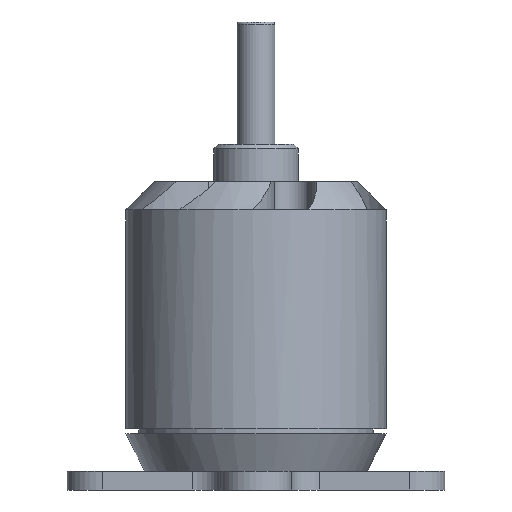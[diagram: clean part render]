
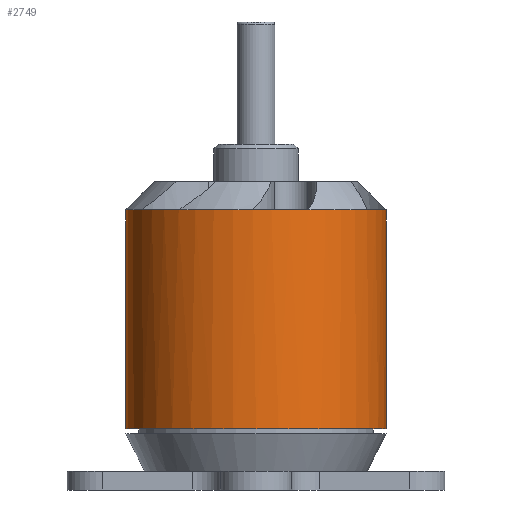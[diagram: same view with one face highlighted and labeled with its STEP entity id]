
A CAD part, front view. The second image highlights one B-rep face of the part: STEP entity #2749.
In plain terms, the highlighted cylindrical face has radius 13.85 mm (diameter 27.7 mm), a full revolution.
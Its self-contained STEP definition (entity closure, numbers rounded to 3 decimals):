
#296=FACE_OUTER_BOUND('',#467,.T.);
#467=EDGE_LOOP('',(#2468,#2469,#2470,#2471,#2472,#2473,#2474,#2475,#2476,
#2477,#2478,#2479,#2480,#2481,#2482,#2483));
#543=CIRCLE('',#2930,13.85);
#559=CIRCLE('',#2966,13.85);
#562=CIRCLE('',#2971,13.85);
#573=CIRCLE('',#2988,13.85);
#580=CIRCLE('',#2999,13.85);
#587=CIRCLE('',#3010,13.85);
#594=CIRCLE('',#3021,13.85);
#601=CIRCLE('',#3030,13.85);
#602=CIRCLE('',#3032,13.85);
#603=CIRCLE('',#3034,13.85);
#604=CIRCLE('',#3036,13.85);
#605=CIRCLE('',#3038,13.85);
#606=CIRCLE('',#3039,13.85);
#611=CIRCLE('',#3053,13.85);
#878=LINE('',#8554,#1008);
#1008=VECTOR('',#3765,13.85);
#1209=VERTEX_POINT('',#5768);
#1222=VERTEX_POINT('',#8312);
#1225=VERTEX_POINT('',#8324);
#1227=VERTEX_POINT('',#8339);
#1230=VERTEX_POINT('',#8354);
#1238=VERTEX_POINT('',#8382);
#1241=VERTEX_POINT('',#8394);
#1246=VERTEX_POINT('',#8417);
#1249=VERTEX_POINT('',#8429);
#1254=VERTEX_POINT('',#8452);
#1257=VERTEX_POINT('',#8464);
#1262=VERTEX_POINT('',#8487);
#1265=VERTEX_POINT('',#8499);
#1266=VERTEX_POINT('',#8528);
#1555=EDGE_CURVE('',#1209,#1209,#543,.T.);
#1602=EDGE_CURVE('',#1222,#1225,#559,.T.);
#1607=EDGE_CURVE('',#1230,#1227,#562,.T.);
#1624=EDGE_CURVE('',#1238,#1241,#573,.T.);
#1635=EDGE_CURVE('',#1246,#1249,#580,.T.);
#1646=EDGE_CURVE('',#1254,#1257,#587,.T.);
#1657=EDGE_CURVE('',#1262,#1265,#594,.T.);
#1664=EDGE_CURVE('',#1249,#1254,#601,.T.);
#1665=EDGE_CURVE('',#1265,#1238,#602,.T.);
#1666=EDGE_CURVE('',#1257,#1230,#603,.T.);
#1667=EDGE_CURVE('',#1227,#1262,#604,.T.);
#1668=EDGE_CURVE('',#1225,#1266,#605,.T.);
#1669=EDGE_CURVE('',#1266,#1246,#606,.T.);
#1678=EDGE_CURVE('',#1241,#1222,#611,.T.);
#1679=EDGE_CURVE('',#1266,#1209,#878,.T.);
#2468=ORIENTED_EDGE('',*,*,#1668,.F.);
#2469=ORIENTED_EDGE('',*,*,#1602,.F.);
#2470=ORIENTED_EDGE('',*,*,#1678,.F.);
#2471=ORIENTED_EDGE('',*,*,#1624,.F.);
#2472=ORIENTED_EDGE('',*,*,#1665,.F.);
#2473=ORIENTED_EDGE('',*,*,#1657,.F.);
#2474=ORIENTED_EDGE('',*,*,#1667,.F.);
#2475=ORIENTED_EDGE('',*,*,#1607,.F.);
#2476=ORIENTED_EDGE('',*,*,#1666,.F.);
#2477=ORIENTED_EDGE('',*,*,#1646,.F.);
#2478=ORIENTED_EDGE('',*,*,#1664,.F.);
#2479=ORIENTED_EDGE('',*,*,#1635,.F.);
#2480=ORIENTED_EDGE('',*,*,#1669,.F.);
#2481=ORIENTED_EDGE('',*,*,#1679,.T.);
#2482=ORIENTED_EDGE('',*,*,#1555,.T.);
#2483=ORIENTED_EDGE('',*,*,#1679,.F.);
#2596=CYLINDRICAL_SURFACE('',#3054,13.85);
#2749=ADVANCED_FACE('',(#296),#2596,.T.);
#2930=AXIS2_PLACEMENT_3D('',#5769,#3496,#3497);
#2966=AXIS2_PLACEMENT_3D('',#8336,#3573,#3574);
#2971=AXIS2_PLACEMENT_3D('',#8355,#3584,#3585);
#2988=AXIS2_PLACEMENT_3D('',#8406,#3621,#3622);
#2999=AXIS2_PLACEMENT_3D('',#8441,#3645,#3646);
#3010=AXIS2_PLACEMENT_3D('',#8476,#3669,#3670);
#3021=AXIS2_PLACEMENT_3D('',#8511,#3693,#3694);
#3030=AXIS2_PLACEMENT_3D('',#8520,#3711,#3712);
#3032=AXIS2_PLACEMENT_3D('',#8522,#3715,#3716);
#3034=AXIS2_PLACEMENT_3D('',#8524,#3719,#3720);
#3036=AXIS2_PLACEMENT_3D('',#8526,#3723,#3724);
#3038=AXIS2_PLACEMENT_3D('',#8529,#3727,#3728);
#3039=AXIS2_PLACEMENT_3D('',#8530,#3729,#3730);
#3053=AXIS2_PLACEMENT_3D('',#8552,#3761,#3762);
#3054=AXIS2_PLACEMENT_3D('',#8553,#3763,#3764);
#3496=DIRECTION('center_axis',(0.,0.,1.));
#3497=DIRECTION('ref_axis',(1.,0.,0.));
#3573=DIRECTION('center_axis',(0.,0.,1.));
#3574=DIRECTION('ref_axis',(1.,0.,0.));
#3584=DIRECTION('center_axis',(0.,0.,1.));
#3585=DIRECTION('ref_axis',(1.,0.,0.));
#3621=DIRECTION('center_axis',(0.,0.,1.));
#3622=DIRECTION('ref_axis',(1.,0.,0.));
#3645=DIRECTION('center_axis',(0.,0.,1.));
#3646=DIRECTION('ref_axis',(1.,0.,0.));
#3669=DIRECTION('center_axis',(0.,0.,1.));
#3670=DIRECTION('ref_axis',(1.,0.,0.));
#3693=DIRECTION('center_axis',(0.,0.,1.));
#3694=DIRECTION('ref_axis',(1.,0.,0.));
#3711=DIRECTION('center_axis',(0.,0.,1.));
#3712=DIRECTION('ref_axis',(1.,0.,0.));
#3715=DIRECTION('center_axis',(0.,0.,1.));
#3716=DIRECTION('ref_axis',(1.,0.,0.));
#3719=DIRECTION('center_axis',(0.,0.,1.));
#3720=DIRECTION('ref_axis',(1.,0.,0.));
#3723=DIRECTION('center_axis',(0.,0.,1.));
#3724=DIRECTION('ref_axis',(1.,0.,0.));
#3727=DIRECTION('center_axis',(0.,0.,1.));
#3728=DIRECTION('ref_axis',(1.,0.,0.));
#3729=DIRECTION('center_axis',(0.,0.,1.));
#3730=DIRECTION('ref_axis',(1.,0.,0.));
#3761=DIRECTION('center_axis',(0.,0.,1.));
#3762=DIRECTION('ref_axis',(1.,0.,0.));
#3763=DIRECTION('center_axis',(0.,0.,1.));
#3764=DIRECTION('ref_axis',(1.,0.,0.));
#3765=DIRECTION('',(0.,0.,-1.));
#5768=CARTESIAN_POINT('',(-13.85,-4.,0.5));
#5769=CARTESIAN_POINT('Origin',(0.,-4.,0.5));
#8312=CARTESIAN_POINT('',(-11.806,3.242,23.8));
#8324=CARTESIAN_POINT('',(-13.761,-2.434,23.8));
#8336=CARTESIAN_POINT('Origin',(0.,-4.,23.8));
#8339=CARTESIAN_POINT('',(13.761,-5.566,23.8));
#8354=CARTESIAN_POINT('',(11.806,-11.242,23.8));
#8355=CARTESIAN_POINT('Origin',(0.,-4.,23.8));
#8382=CARTESIAN_POINT('',(0.369,9.845,23.8));
#8394=CARTESIAN_POINT('',(-5.525,8.7,23.8));
#8406=CARTESIAN_POINT('Origin',(0.,-4.,23.8));
#8417=CARTESIAN_POINT('',(-12.175,-10.603,23.8));
#8429=CARTESIAN_POINT('',(-8.237,-15.135,23.8));
#8441=CARTESIAN_POINT('Origin',(0.,-4.,23.8));
#8452=CARTESIAN_POINT('',(-0.369,-17.845,23.8));
#8464=CARTESIAN_POINT('',(5.525,-16.7,23.8));
#8476=CARTESIAN_POINT('Origin',(0.,-4.,23.8));
#8487=CARTESIAN_POINT('',(12.175,2.603,23.8));
#8499=CARTESIAN_POINT('',(8.237,7.135,23.8));
#8511=CARTESIAN_POINT('Origin',(0.,-4.,23.8));
#8520=CARTESIAN_POINT('Origin',(0.,-4.,23.8));
#8522=CARTESIAN_POINT('Origin',(0.,-4.,23.8));
#8524=CARTESIAN_POINT('Origin',(0.,-4.,23.8));
#8526=CARTESIAN_POINT('Origin',(0.,-4.,23.8));
#8528=CARTESIAN_POINT('',(-13.85,-4.,23.8));
#8529=CARTESIAN_POINT('Origin',(0.,-4.,23.8));
#8530=CARTESIAN_POINT('Origin',(0.,-4.,23.8));
#8552=CARTESIAN_POINT('Origin',(0.,-4.,23.8));
#8553=CARTESIAN_POINT('Origin',(0.,-4.,-4.));
#8554=CARTESIAN_POINT('',(-13.85,-4.,-4.));
